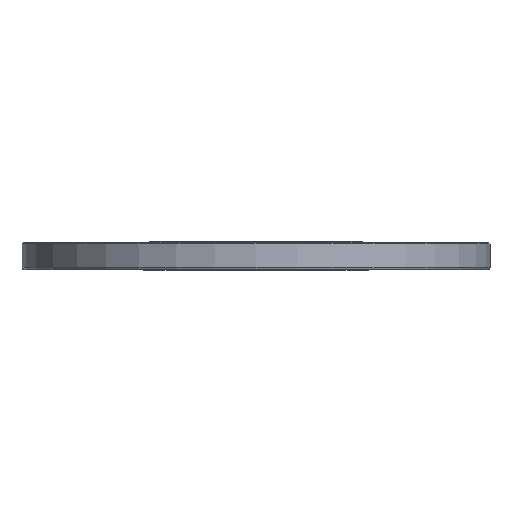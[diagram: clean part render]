
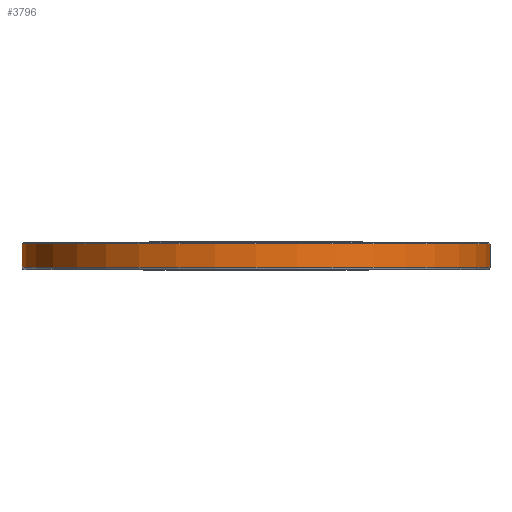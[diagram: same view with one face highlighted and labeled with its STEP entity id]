
A CAD part, top view. The second image highlights one B-rep face of the part: STEP entity #3796.
In plain terms, the highlighted cylindrical face has radius 217.5 mm (diameter 435 mm), a partial arc.
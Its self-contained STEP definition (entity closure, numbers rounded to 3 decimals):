
#982=CARTESIAN_POINT('',(0.,2.,0.));
#983=DIRECTION('',(0.,1.,0.));
#984=DIRECTION('',(-1.,0.,0.));
#985=AXIS2_PLACEMENT_3D('',#982,#983,#984);
#987=CARTESIAN_POINT('',(0.,23.8,0.));
#988=DIRECTION('',(0.,-1.,0.));
#989=DIRECTION('',(1.,0.,0.));
#990=AXIS2_PLACEMENT_3D('',#987,#988,#989);
#992=DIRECTION('',(0.,-1.,0.));
#993=VECTOR('',#992,21.8);
#994=CARTESIAN_POINT('',(-217.5,23.8,0.));
#995=LINE('',#994,#993);
#996=DIRECTION('',(0.,1.,0.));
#997=VECTOR('',#996,21.8);
#998=CARTESIAN_POINT('',(217.5,2.,0.));
#999=LINE('',#998,#997);
#2470=CARTESIAN_POINT('',(-217.5,2.,0.));
#2472=VERTEX_POINT('',#2470);
#2500=CARTESIAN_POINT('',(217.5,2.,0.));
#2502=VERTEX_POINT('',#2500);
#2676=CARTESIAN_POINT('',(-217.5,23.8,0.));
#2677=CARTESIAN_POINT('',(217.5,23.8,0.));
#2678=VERTEX_POINT('',#2676);
#2679=VERTEX_POINT('',#2677);
#3782=CARTESIAN_POINT('',(0.,0.,0.));
#3783=DIRECTION('',(0.,1.,0.));
#3784=DIRECTION('',(1.,0.,0.));
#3785=AXIS2_PLACEMENT_3D('',#3782,#3783,#3784);
#3786=CYLINDRICAL_SURFACE('',#3785,217.5);
#3788=ORIENTED_EDGE('',*,*,#3787,.F.);
#3789=ORIENTED_EDGE('',*,*,#3768,.F.);
#3791=ORIENTED_EDGE('',*,*,#3790,.F.);
#3793=ORIENTED_EDGE('',*,*,#3792,.F.);
#3794=EDGE_LOOP('',(#3788,#3789,#3791,#3793));
#3795=FACE_OUTER_BOUND('',#3794,.F.);
#986=CIRCLE('',#985,217.5);
#991=CIRCLE('',#990,217.5);
#3768=EDGE_CURVE('',#2472,#2502,#986,.T.);
#3787=EDGE_CURVE('',#2502,#2679,#999,.T.);
#3790=EDGE_CURVE('',#2678,#2472,#995,.T.);
#3792=EDGE_CURVE('',#2679,#2678,#991,.T.);
#3796=ADVANCED_FACE('',(#3795),#3786,.T.);
